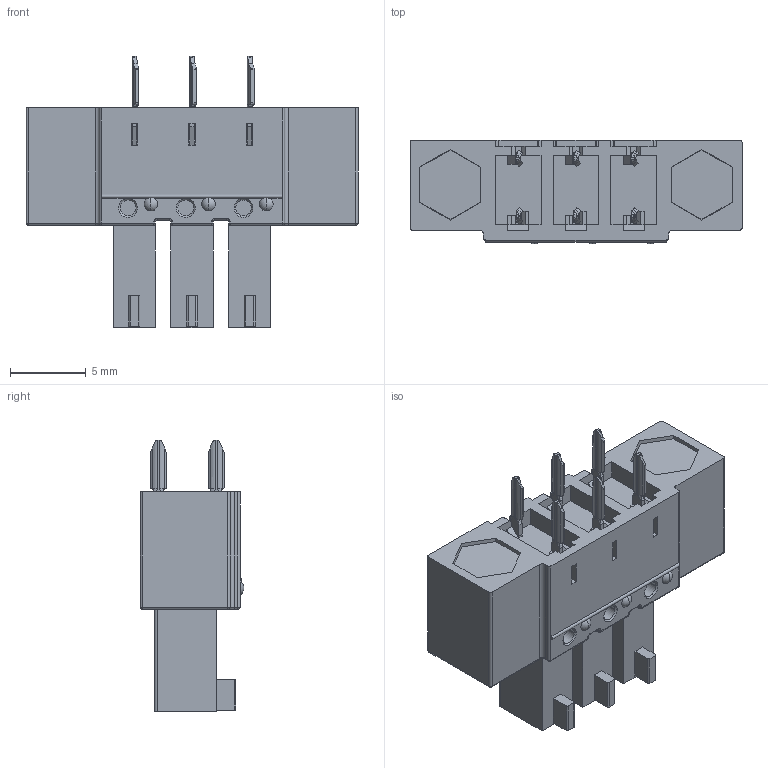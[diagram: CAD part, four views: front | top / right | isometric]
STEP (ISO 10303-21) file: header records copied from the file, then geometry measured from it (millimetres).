
FILE_DESCRIPTION((''),'2;1');
FILE_NAME('V70332X00000G','2019-04-18T',('zhenbing.lai'),(''),'CREO PARAMETRIC BY PTC INC, 2016260','CREO PARAMETRIC BY PTC INC, 2016260','');
FILE_SCHEMA(('CONFIG_CONTROL_DESIGN'));
Length unit declared in the file: millimetre
Products named in the file (1): V70332X00000G
Bounding box: 21.92 x 6.85 x 17.9 mm (x, y, z)
Volume: 1179.3 mm3; surface area: 1262.6 mm2
Topology: 1 solids, 1 shells, 551 faces, 1533 edges, 991 vertices
Faces by surface type: plane 295, cylinder 114, bspline 80, torus 34, cone 16, sphere 12
Entity records: 19846 total; most frequent: CARTESIAN_POINT 6324, ORIENTED_EDGE 3042, DIRECTION 2479, EDGE_CURVE 1521, VERTEX_POINT 991, VECTOR 921, LINE 921, AXIS2_PLACEMENT_3D 779
